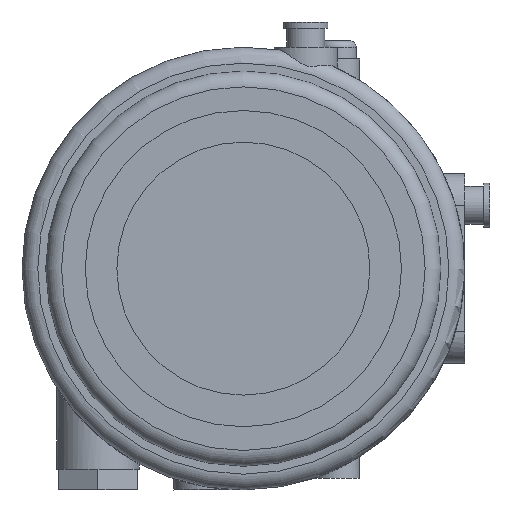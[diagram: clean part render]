
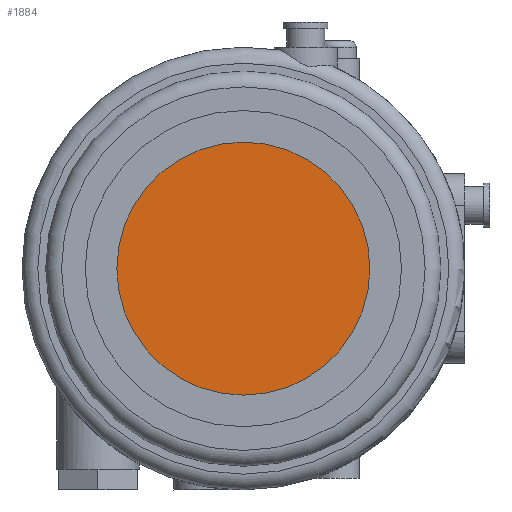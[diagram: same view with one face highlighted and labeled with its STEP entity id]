
A CAD part, front view. The second image highlights one B-rep face of the part: STEP entity #1884.
In plain terms, the highlighted planar face has unit normal (0, -1, 0).
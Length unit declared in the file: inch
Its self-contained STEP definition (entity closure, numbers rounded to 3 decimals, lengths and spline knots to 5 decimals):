
#63=PLANE('',#2105);
#168=FACE_OUTER_BOUND('',#292,.T.);
#292=EDGE_LOOP('',(#1568));
#443=CIRCLE('',#2106,1.5748);
#863=VERTEX_POINT('',#5524);
#1111=EDGE_CURVE('',#863,#863,#443,.T.);
#1568=ORIENTED_EDGE('',*,*,#1111,.F.);
#1884=ADVANCED_FACE('',(#168),#63,.T.);
#2105=AXIS2_PLACEMENT_3D('',#5523,#2552,#2553);
#2106=AXIS2_PLACEMENT_3D('',#5525,#2554,#2555);
#2552=DIRECTION('center_axis',(0.,-1.,0.));
#2553=DIRECTION('ref_axis',(1.,0.,0.));
#2554=DIRECTION('center_axis',(0.,1.,0.));
#2555=DIRECTION('ref_axis',(1.,0.,0.));
#5523=CARTESIAN_POINT('Origin',(0.,0.7874,
0.));
#5524=CARTESIAN_POINT('',(-1.5748,0.7874,0.));
#5525=CARTESIAN_POINT('Origin',(0.,0.7874,
0.));
